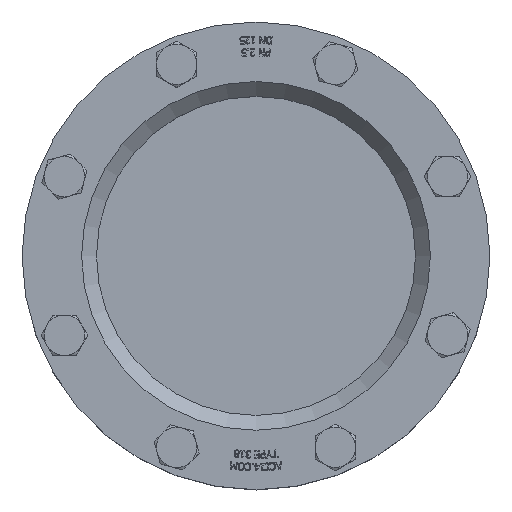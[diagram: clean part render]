
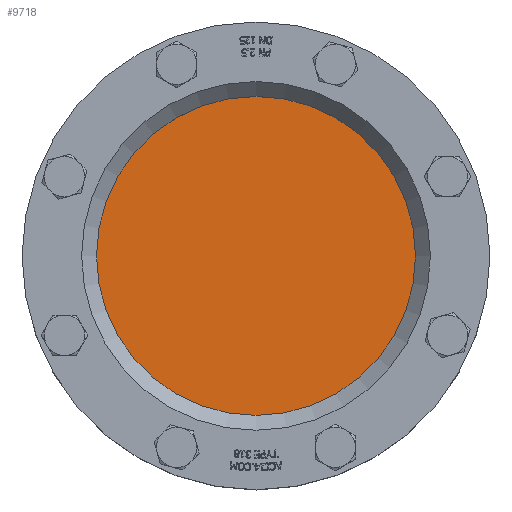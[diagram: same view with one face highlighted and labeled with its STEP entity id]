
A CAD part, top view. The second image highlights one B-rep face of the part: STEP entity #9718.
In plain terms, the highlighted planar face has unit normal (0, 0, 1).
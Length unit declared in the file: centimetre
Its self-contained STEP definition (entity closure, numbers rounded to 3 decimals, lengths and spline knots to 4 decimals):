
#3056=FACE_OUTER_BOUND('',#3625,.T.);
#3625=EDGE_LOOP('',(#6665));
#4245=CIRCLE('',#10284,7.5);
#4337=VERTEX_POINT('',#12567);
#5261=EDGE_CURVE('',#4337,#4337,#4245,.T.);
#6665=ORIENTED_EDGE('',*,*,#5261,.F.);
#9407=PLANE('',#10283);
#9718=ADVANCED_FACE('',(#3056),#9407,.F.);
#10283=AXIS2_PLACEMENT_3D('',#12566,#10781,#10782);
#10284=AXIS2_PLACEMENT_3D('',#12568,#10783,#10784);
#10781=DIRECTION('center_axis',(0.,0.,
-1.));
#10782=DIRECTION('ref_axis',(-1.,0.,0.));
#10783=DIRECTION('center_axis',(0.,0.,
-1.));
#10784=DIRECTION('ref_axis',(1.,0.,0.));
#12566=CARTESIAN_POINT('Origin',(3.6266,0.0625,-11.8311));
#12567=CARTESIAN_POINT('',(-3.8734,0.0625,-11.8311));
#12568=CARTESIAN_POINT('Origin',(3.6266,0.0625,-11.8311));
